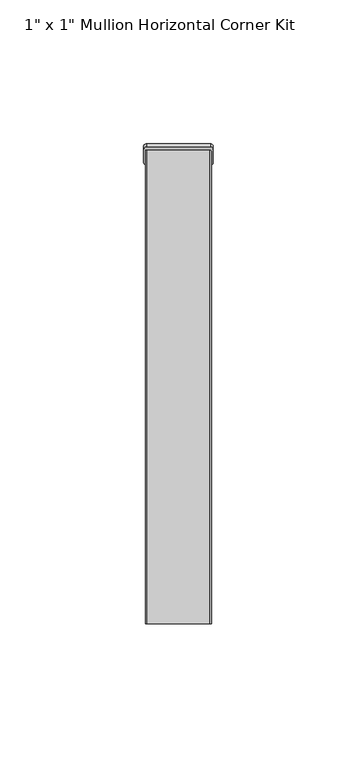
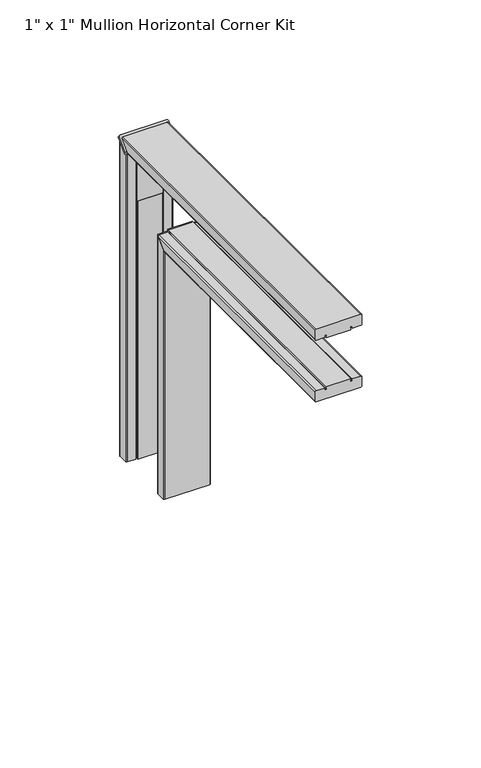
"""IFC4 building model written with IfcOpenShell, lengths in millimetres: proxy geometry."""

import ifcopenshell
import ifcopenshell.guid

model = None  # the IFC model being written
_history = None  # IfcOwnerHistory: only IFC2X3 demands one
_inside = {}  # id of a spatial element -> (the spatial element, [elements in it])
_under = {}  # id of a project, library or spatial element -> (it, [spatial elements below it])
_declared = {}  # id of a project -> (the project, [libraries it declares])
_typed = {}  # id of a type object -> (the type object, [elements of that type])
_made_of = {}  # id of a material, layer set ... -> (it, [elements and type objects made of it])


def new_model(schema):
    """Start an empty IFC model of exactly this schema.

    Asked for "IFC4X3", IfcOpenShell would pick the latest addendum, in which some entities
    have other attributes; the version numbers below select the first issue.
    IFC2X3 requires an IfcOwnerHistory on every rooted entity: one is made here for all.
    """
    global model, _history
    if schema == "IFC4X3":
        model = ifcopenshell.file(schema_version=(4, 3, 0, 0))
    else:
        model = ifcopenshell.file(schema=schema)
    _inside.clear()
    _under.clear()
    _declared.clear()
    _typed.clear()
    _made_of.clear()
    _history = None
    if model.schema == "IFC2X3":
        org = make("IfcOrganization", Name="unknown")
        user = make(
            "IfcPersonAndOrganization",
            ThePerson=make("IfcPerson", FamilyName="unknown"),
            TheOrganization=org,
        )
        app = make(
            "IfcApplication",
            ApplicationDeveloper=org,
            Version="unknown",
            ApplicationFullName="unknown",
            ApplicationIdentifier="unknown",
        )
        _history = make(
            "IfcOwnerHistory",
            OwningUser=user,
            OwningApplication=app,
            ChangeAction="ADDED",
            CreationDate=0,
        )
    return model


def make(cls, **values):
    """One entity of the class cls with the attributes given. An attribute that is None is left unset."""
    return model.create_entity(
        cls, **{name: value for name, value in values.items() if value is not None}
    )


def rooted(cls, **values):
    """An entity with a GlobalId (a new one), such as an element, a storey or a relation."""
    return make(cls, GlobalId=ifcopenshell.guid.new(), OwnerHistory=_history, **values)


def si_unit(unit_type, name, prefix=None):
    """IfcSIUnit, for example si_unit("LENGTHUNIT", "METRE", prefix="MILLI")."""
    return make("IfcSIUnit", UnitType=unit_type, Prefix=prefix, Name=name)


def assignment(units):
    """IfcUnitAssignment: the units of a project."""
    return None if units is None else make("IfcUnitAssignment", Units=units)


def point(xyz):
    """IfcCartesianPoint."""
    return None if xyz is None else make("IfcCartesianPoint", Coordinates=xyz)


def direction(xyz):
    """IfcDirection."""
    return None if xyz is None else make("IfcDirection", DirectionRatios=xyz)


def frame(location, z_axis=None, x_axis=None):
    """IfcAxis2Placement3D, a coordinate frame: its origin and axes. An axis left out is left unset."""
    return make(
        "IfcAxis2Placement3D",
        Location=point(location),
        Axis=direction(z_axis),
        RefDirection=direction(x_axis),
    )


def origin():
    """The frame at (0, 0, 0) with its axes left unset."""
    return frame((0.0, 0.0, 0.0))


def place(relative_to, where):
    """IfcLocalPlacement: puts the frame where relative to a parent placement (None: the world)."""
    return make(
        "IfcLocalPlacement", PlacementRelTo=relative_to, RelativePlacement=where
    )


def context(
    kind, dimensions, precision=None, world=None, true_north=None, identifier=None
):
    """IfcGeometricRepresentationContext, for example the 3D "Model" context."""
    return make(
        "IfcGeometricRepresentationContext",
        ContextIdentifier=identifier,
        ContextType=kind,
        CoordinateSpaceDimension=dimensions,
        Precision=precision,
        WorldCoordinateSystem=world,
        TrueNorth=true_north,
    )


def project(units=None, contexts=None):
    """IfcProject with its units and contexts."""
    return rooted(
        "IfcProject",
        Name="project",
        RepresentationContexts=contexts,
        UnitsInContext=assignment(units),
    )


def spatial(cls, under=None, at=None, **own):
    """A site, building, storey or space (cls), placed at a placement, below another one or the project."""
    s = rooted(cls, ObjectPlacement=at, **own)
    if under is not None:
        _under.setdefault(under.id(), (under, []))[1].append(s)
    return s


def circle_curve(where, radius):
    """IfcCircle in the frame where."""
    return make("IfcCircle", Position=where, Radius=radius)


def ellipse_curve(where, semi_axis1, semi_axis2):
    """IfcEllipse in the frame where."""
    return make(
        "IfcEllipse", Position=where, SemiAxis1=semi_axis1, SemiAxis2=semi_axis2
    )


def shape(context_of_items, identifier, shape_type, items):
    """IfcShapeRepresentation: the items that make up one representation, for example the "Body"."""
    return make(
        "IfcShapeRepresentation",
        ContextOfItems=context_of_items,
        RepresentationIdentifier=identifier,
        RepresentationType=shape_type,
        Items=items,
    )


def source(mapping_origin, context_of_items, identifier, shape_type, items):
    """IfcRepresentationMap: a shape defined once, which mapped items show again and again."""
    return make(
        "IfcRepresentationMap",
        MappingOrigin=mapping_origin,
        MappedRepresentation=shape(context_of_items, identifier, shape_type, items),
    )


def transform(
    local_origin,
    x_axis=None,
    y_axis=None,
    z_axis=None,
    scale=None,
    scale2=None,
    scale3=None,
    uniform=True,
):
    """IfcCartesianTransformationOperator3D, or its non-uniform kind. x_axis, y_axis, z_axis: its Axis1, 2, 3."""
    if uniform:
        return make(
            "IfcCartesianTransformationOperator3D",
            Axis1=direction(x_axis),
            Axis2=direction(y_axis),
            LocalOrigin=point(local_origin),
            Scale=scale,
            Axis3=direction(z_axis),
        )
    return make(
        "IfcCartesianTransformationOperator3DnonUniform",
        Axis1=direction(x_axis),
        Axis2=direction(y_axis),
        LocalOrigin=point(local_origin),
        Scale=scale,
        Axis3=direction(z_axis),
        Scale2=scale2,
        Scale3=scale3,
    )


def mapped(mapping_source, mapping_target):
    """IfcMappedItem: shows the shape of a source again, moved by a transform."""
    return make(
        "IfcMappedItem", MappingSource=mapping_source, MappingTarget=mapping_target
    )


def made_of(thing, what):
    """Note that an element or type object is made of a material, layer set ...; save() writes the relation."""
    if what is not None:
        _made_of.setdefault(what.id(), (what, []))[1].append(thing)
    return thing


def element(
    cls,
    number,
    at=None,
    inside=None,
    cuts=None,
    type_object=None,
    material=None,
    context=None,
    identifier="Body",
    shape_type=None,
    held_by="IfcProductDefinitionShape",
    body=None,
    shapes=None,
    **own,
):
    """One element of the class cls, such as IfcWall. Its Tag is "e" and its number.

    at: its placement. inside: the storey or other place that contains it. cuts: it is an
    opening in that element (IfcRelVoidsElement). A single representation is given by context,
    identifier, shape_type and body (its items); several are given by shapes. held_by: the class
    of the entity that holds the representations. save() writes the other relations.
    """
    e = rooted(cls, Tag="e%d" % number, ObjectPlacement=at, **own)
    if body is not None:
        shapes = [shape(context, identifier, shape_type, body)]
    if shapes is not None:
        e.Representation = make(held_by, Representations=shapes)
    if inside is not None:
        _inside.setdefault(inside.id(), (inside, []))[1].append(e)
    if cuts is not None:
        rooted(
            "IfcRelVoidsElement", RelatingBuildingElement=cuts, RelatedOpeningElement=e
        )
    if type_object is not None:
        _typed.setdefault(type_object.id(), (type_object, []))[1].append(e)
    return made_of(e, material)


def aggregate(whole, parts):
    """IfcRelAggregates: a whole, such as a stair, and the parts it consists of."""
    return rooted("IfcRelAggregates", RelatingObject=whole, RelatedObjects=parts)


def save(model, path):
    """Write the relations noted so far, then the file.

    IfcRelAggregates (storeys below a building ...), IfcRelContainedInSpatialStructure (elements
    in a storey), IfcRelDefinesByType, IfcRelAssociatesMaterial and IfcRelDeclares: one each for
    every whole, place, type object, material and project.
    """
    for whole, parts in _under.values():
        aggregate(whole, parts)
    for where, things in _inside.values():
        rooted(
            "IfcRelContainedInSpatialStructure",
            RelatedElements=things,
            RelatingStructure=where,
        )
    for kind, things in _typed.values():
        rooted("IfcRelDefinesByType", RelatedObjects=things, RelatingType=kind)
    for what, things in _made_of.values():
        rooted("IfcRelAssociatesMaterial", RelatedObjects=things, RelatingMaterial=what)
    for by, libraries in _declared.values():
        rooted("IfcRelDeclares", RelatingContext=by, RelatedDefinitions=libraries)
    model.write(path)


def plane_surface(at):
    """IfcPlane: the flat surface through the origin of the frame at, square to its z axis."""
    return make("IfcPlane", Position=at)


def cylinder_surface(at, radius):
    """IfcCylindricalSurface: all points at the distance radius from the z axis of the frame at."""
    return make("IfcCylindricalSurface", Position=at, Radius=radius)


def advanced_brep(points, edges, surfaces, faces):
    """IfcAdvancedBrep: a solid bounded by faces that lie on surfaces and meet in shared edges.

    An edge is (start, end): straight between two places in points (the first is 0);
    or (start, end, curve); or (start, end, curve, False) where it runs against its curve.
    A face is (place in surfaces, loops), or (place, loops, False) where it looks against
    its surface's normal. A loop lists edges by number (the first is 1), with a minus sign
    where the edge is run from its end to its start. The first loop is the outer one.
    """
    corners = [point(p) for p in points]
    vertices = [make("IfcVertexPoint", VertexGeometry=c) for c in corners]
    made = []
    for start, end, *more in edges:
        made.append(
            make(
                "IfcEdgeCurve",
                EdgeStart=vertices[start],
                EdgeEnd=vertices[end],
                EdgeGeometry=more[0] if more else make("IfcPolyline", Points=[corners[start], corners[end]]),
                SameSense=more[1] if len(more) > 1 else True,
            )
        )
    hull = []
    for where, loops, *sense in faces:
        bounds = []
        for j, loop in enumerate(loops):
            ring = [make("IfcOrientedEdge", EdgeElement=made[abs(k) - 1], Orientation=k > 0) for k in loop]
            bounds.append(
                make(
                    "IfcFaceOuterBound" if j == 0 else "IfcFaceBound",
                    Bound=make("IfcEdgeLoop", EdgeList=ring),
                    Orientation=True,
                )
            )
        hull.append(make("IfcAdvancedFace", Bounds=bounds, FaceSurface=surfaces[where], SameSense=sense[0] if sense else True))
    return make("IfcAdvancedBrep", Outer=make("IfcClosedShell", CfsFaces=hull))


def proxy_998302b4(model_context):
    return source(origin(), model_context, "Body", "AdvancedBrep", [
        advanced_brep(
        [(12.065, 5.9717086, 4.8940779), (12.065, 1.2071068, 0.129476), (11.065, 0.5, -0.5776307), (6.3695855, 0.5, -0.5776307), (6.3695855, 1.5, 0.4223693), (-6.3695855, 1.5, 0.4223693), (-6.3695855, 0.5, -0.5776307), (-11.065, 0.5, -0.5776307), (-12.065, 1.2071068, 0.129476), (-12.065, 5.9717086, 4.8940779), (-11.065, 6.6788154, 5.6011846), (11.065, 6.6788154, 5.6011846), (12.065, 4.8940779, 5.9717086), (11.065, 5.6011846, 6.6788154), (-11.065, 5.6011846, 6.6788154), (-12.065, 4.8940779, 5.9717086), (-12.065, 0.129476, 1.2071068), (-11.065, -0.5776307, 0.5), (-6.3695855, -0.5776307, 0.5), (-6.3695855, 0.4223693, 1.5), (6.3695855, 0.4223693, 1.5), (6.3695855, -0.5776307, 0.5), (11.065, -0.5776307, 0.5), (12.065, 0.129476, 1.2071068), (11.065, -0.3276307, 0.25), (11.8712658, 0.25, 0.25), (11.065, 0.25, -0.3276307), (6.3695855, -0.3276307, 0.25), (6.3695855, 0.25, -0.3276307), (-11.065, -0.3276307, 0.25), (-6.3695855, -0.3276307, 0.25), (-11.065, 0.25, -0.3276307), (-6.3695855, 0.25, -0.3276307), (-11.8712658, 0.25, 0.25), (-6.3695855, 0.25, -26.372), (-6.3695855, 1.5, -26.372), (6.3695855, 1.5, -26.372), (6.3695855, 0.25, -26.372), (-6.3695855, -26.372, 0.25), (-6.3695855, -26.372, 1.5), (6.3695855, -26.372, 1.5), (6.3695855, -26.372, 0.25)],
        [
            (0, 1),
            (1, 2, circle_curve(frame((11.065, 1.2071068, 0.129476), z_axis=(0.0, 0.7071067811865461, -0.707106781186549), x_axis=(0.0, -0.707106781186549, -0.7071067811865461)), 1.0)),
            (2, 3),
            (3, 4),
            (4, 5),
            (5, 6),
            (6, 7),
            (7, 8, circle_curve(frame((-11.065, 1.2071068, 0.129476), z_axis=(0.0, 0.7071067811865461, -0.707106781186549), x_axis=(0.0, -0.707106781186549, -0.7071067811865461)), 1.0)),
            (8, 9),
            (9, 10, circle_curve(frame((-11.065, 5.9717086, 4.8940779), z_axis=(0.0, 0.7071067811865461, -0.707106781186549), x_axis=(0.0, -0.707106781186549, -0.7071067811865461)), 1.0)),
            (10, 11),
            (11, 0, circle_curve(frame((11.065, 5.9717086, 4.8940779), z_axis=(0.0, 0.7071067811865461, -0.707106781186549), x_axis=(0.0, -0.707106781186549, -0.7071067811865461)), 1.0)),
            (12, 13, circle_curve(frame((11.065, 4.8940779, 5.9717086), z_axis=(0.0, -0.7071067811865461, 0.707106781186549), x_axis=(0.0, -0.707106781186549, -0.7071067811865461)), 1.0)),
            (13, 14),
            (14, 15, circle_curve(frame((-11.065, 4.8940779, 5.9717086), z_axis=(0.0, -0.7071067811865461, 0.707106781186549), x_axis=(0.0, -0.707106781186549, -0.7071067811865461)), 1.0)),
            (15, 16),
            (16, 17, circle_curve(frame((-11.065, 0.129476, 1.2071068), z_axis=(0.0, -0.7071067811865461, 0.707106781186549), x_axis=(0.0, -0.707106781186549, -0.7071067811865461)), 1.0)),
            (17, 18),
            (18, 19),
            (19, 20),
            (20, 21),
            (21, 22),
            (22, 23, circle_curve(frame((11.065, 0.129476, 1.2071068), z_axis=(0.0, -0.7071067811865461, 0.707106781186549), x_axis=(0.0, -0.707106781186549, -0.7071067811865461)), 1.0)),
            (23, 12),
            (0, 12),
            (23, 1),
            (22, 24),
            (24, 25, ellipse_curve(frame((11.065, 1.0865828, 0.25), z_axis=(0.0, 0.0, 1.0), x_axis=(0.0, 1.0, 0.0)), 1.4142136, 1.0)),
            (25, 26, ellipse_curve(frame((11.065, 0.25, 1.0865828), z_axis=(0.0, 1.0, 0.0), x_axis=(0.0, 0.0, -1.0)), 1.4142136, 1.0)),
            (26, 2),
            (21, 27),
            (27, 24),
            (26, 28),
            (28, 3),
            (17, 29),
            (29, 30),
            (30, 18),
            (31, 7),
            (6, 32),
            (32, 31),
            (31, 33, ellipse_curve(frame((-11.065, 0.25, 1.0865828), z_axis=(0.0, 1.0, 0.0), x_axis=(0.0, 0.0, -1.0)), 1.4142136, 1.0)),
            (33, 29, ellipse_curve(frame((-11.065, 1.0865828, 0.25), z_axis=(0.0, 0.0, 1.0), x_axis=(0.0, 1.0, 0.0)), 1.4142136, 1.0)),
            (16, 8),
            (15, 9),
            (14, 10),
            (13, 11),
            (34, 35),
            (35, 36),
            (36, 37),
            (37, 34),
            (34, 32),
            (5, 35),
            (38, 39),
            (39, 19),
            (30, 38),
            (4, 36),
            (28, 37),
            (40, 41),
            (41, 27),
            (20, 40),
            (38, 41),
            (40, 39),
            (33, 25),
        ],
        [
            plane_surface(frame((0.0, 0.5388154, -0.5388154), z_axis=(0.0, 0.7071067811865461, -0.707106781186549), x_axis=(1.0, 0.0, 0.0))),
            plane_surface(frame((0.0, -0.5388154, 0.5388154), z_axis=(0.0, -0.7071067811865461, 0.707106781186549), x_axis=(1.0, 0.0, 0.0))),
            plane_surface(frame((12.065, 5.9717086, 4.8940779), z_axis=(1.0000000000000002, 0.0, 0.0), x_axis=(0.0, -0.7071067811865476, 0.7071067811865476))),
            cylinder_surface(frame((11.065, 1.2071068, 0.129476), z_axis=(0.0, 0.7071067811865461, -0.707106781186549), x_axis=(0.0, -0.707106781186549, -0.7071067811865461)), 1.0),
            plane_surface(frame((11.065, 0.5, -0.5776307), z_axis=(0.0, -0.7071067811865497, -0.7071067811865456), x_axis=(0.0, -0.7071067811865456, 0.7071067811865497))),
            cylinder_surface(frame((-11.065, 1.2071068, 0.129476), z_axis=(0.0, 0.7071067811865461, -0.707106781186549), x_axis=(0.0, -0.707106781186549, -0.7071067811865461)), 1.0),
            plane_surface(frame((-12.065, 1.2071068, 0.129476), z_axis=(-1.0000000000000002, 0.0, 0.0), x_axis=(0.0, -0.7071067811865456, 0.7071067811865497))),
            cylinder_surface(frame((-11.065, 5.9717086, 4.8940779), z_axis=(0.0, 0.7071067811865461, -0.707106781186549), x_axis=(0.0, -0.707106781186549, -0.7071067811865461)), 1.0),
            plane_surface(frame((-11.065, 6.6788154, 5.6011846), z_axis=(0.0, 0.7071067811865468, 0.7071067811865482), x_axis=(0.0, -0.7071067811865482, 0.7071067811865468))),
            cylinder_surface(frame((11.065, 5.9717086, 4.8940779), z_axis=(0.0, 0.7071067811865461, -0.707106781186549), x_axis=(0.0, -0.707106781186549, -0.7071067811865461)), 1.0),
            plane_surface(frame((0.0, 0.0, -26.372), z_axis=(0.0, 0.0, -1.0), x_axis=(1.0, 0.0, 0.0))),
            plane_surface(frame((-6.3695855, 0.25, -26.372), z_axis=(-1.0, 0.0, 0.0), x_axis=(0.0, 0.0, 1.0))),
            plane_surface(frame((-6.3695855, 1.5, -26.372), z_axis=(0.0, 1.0, 0.0), x_axis=(0.0, 0.0, 1.0))),
            plane_surface(frame((6.3695855, 1.5, -26.372), z_axis=(1.0, 0.0, 0.0), x_axis=(0.0, 0.0, 1.0))),
            plane_surface(frame((0.0, -26.372, 0.0), z_axis=(0.0, -1.0, 0.0), x_axis=(1.0, 0.0, 0.0))),
            plane_surface(frame((-6.3695855, 1.5, 1.5), z_axis=(0.0, 0.0, 1.0), x_axis=(0.0, -1.0, 0.0))),
            plane_surface(frame((-17.5, -1.028046, 0.25), z_axis=(0.0, 0.0, -1.0), x_axis=(1.0, 0.0, 0.0))),
            plane_surface(frame((-17.5, 0.25, 0.25), z_axis=(0.0, -1.0, 0.0), x_axis=(1.0, 0.0, 0.0))),
        ],
        [
            (0, [[1, 2, 3, 4, 5, 6, 7, 8, 9, 10, 11, 12]]),
            (1, [[13, 14, 15, 16, 17, 18, 19, 20, 21, 22, 23, 24]]),
            (2, [[-1, 25, -24, 26]]),
            (3, [[-2, -26, -23, 27, 28, 29, 30]]),
            (4, [[-27, -22, 31, 32]]),
            (4, [[-30, 33, 34, -3]]),
            (4, [[35, 36, 37, -18]]),
            (4, [[38, -7, 39, 40]]),
            (5, [[-8, -38, 41, 42, -35, -17, 43]]),
            (6, [[-9, -43, -16, 44]]),
            (7, [[-10, -44, -15, 45]]),
            (8, [[-11, -45, -14, 46]]),
            (9, [[-12, -46, -13, -25]]),
            (10, [[47, 48, 49, 50]]),
            (11, [[-47, 51, -39, -6, 52]]),
            (11, [[53, 54, -19, -37, 55]]),
            (12, [[-48, -52, -5, 56]]),
            (13, [[-49, -56, -4, -34, 57]]),
            (13, [[58, 59, -31, -21, 60]]),
            (14, [[-53, 61, -58, 62]]),
            (15, [[-62, -60, -20, -54]]),
            (16, [[-28, -32, -59, -61, -55, -36, -42, 63]]),
            (17, [[-29, -63, -41, -40, -51, -50, -57, -33]]),
        ],
    ),
        advanced_brep(
        [(-11.5, 5.64, -160.0398438), (-11.0, 6.14, -160.0398438), (11.0, 6.14, -160.0398438), (11.5, 5.64, -160.0398438), (11.5, 1.0, -160.0398438), (11.0, 0.5, -160.0398438), (6.75, 0.5, -160.0398438), (6.75, 1.5, -160.0398438), (5.7984177, 1.5, -160.0398438), (6.0, 0.0, -160.0398438), (-6.0, 0.0, -160.0398438), (-5.7984177, 1.5, -160.0398438), (-6.75, 1.5, -160.0398438), (-6.75, 0.5, -160.0398438), (-11.0, 0.5, -160.0398438), (-11.5, 1.0, -160.0398438), (-11.5, 1.0, 1.0), (-11.5, 5.2407851, 5.2407851), (-11.5, 5.64, 5.2407851), (-11.0, 0.5, 0.5), (-6.75, 0.5, 0.5), (-6.75, 1.5, 1.5), (6.75, 1.5, 1.5), (-5.7984177, 1.5, -26.372), (5.7984177, 1.5, -26.372), (-6.0, 0.0, -26.372), (6.0, 0.0, -26.372), (6.75, 0.5, 0.5), (11.0, 0.5, 0.5), (11.5, 1.0, 1.0), (11.5, 5.64, 5.2407851), (11.5, 5.2407851, 5.2407851), (11.0, 6.14, 5.2407851), (-11.0, 6.14, 5.2407851)],
        [
            (0, 1, circle_curve(frame((-11.0, 5.64, -160.0398438), z_axis=(0.0, 0.0, -1.0), x_axis=(0.0, -1.0, 0.0)), 0.5)),
            (1, 2),
            (2, 3, circle_curve(frame((11.0, 5.64, -160.0398438), z_axis=(0.0, 0.0, -1.0), x_axis=(0.0, -1.0, 0.0)), 0.5)),
            (3, 4),
            (4, 5, circle_curve(frame((11.0, 1.0, -160.0398438), z_axis=(0.0, 0.0, -1.0), x_axis=(0.0, -1.0, 0.0)), 0.5)),
            (5, 6),
            (6, 7),
            (7, 8),
            (8, 9),
            (9, 10),
            (10, 11),
            (11, 12),
            (12, 13),
            (13, 14),
            (14, 15, circle_curve(frame((-11.0, 1.0, -160.0398438), z_axis=(0.0, 0.0, -1.0), x_axis=(0.0, -1.0, 0.0)), 0.5)),
            (15, 0),
            (15, 16),
            (16, 17),
            (17, 18),
            (18, 0),
            (14, 19),
            (19, 16, ellipse_curve(frame((-11.0, 1.0, 1.0), z_axis=(0.0, 0.7071067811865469, -0.7071067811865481), x_axis=(0.0, 0.7071067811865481, 0.7071067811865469)), 0.7071068, 0.5)),
            (13, 20),
            (20, 19),
            (12, 21),
            (21, 20),
            (7, 22),
            (22, 21),
            (11, 23),
            (23, 24),
            (24, 8),
            (10, 25),
            (25, 23),
            (9, 26),
            (26, 25),
            (24, 26),
            (6, 27),
            (27, 22),
            (5, 28),
            (28, 27),
            (4, 29),
            (29, 28, ellipse_curve(frame((11.0, 1.0, 1.0), z_axis=(0.0, 0.7071067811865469, -0.7071067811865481), x_axis=(0.0, 0.7071067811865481, 0.7071067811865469)), 0.7071068, 0.5)),
            (3, 30),
            (30, 31),
            (31, 29),
            (2, 32),
            (32, 30, circle_curve(frame((11.0, 5.64, 5.2407851), z_axis=(0.0, 0.0, -1.0), x_axis=(0.0, -1.0, 0.0)), 0.5)),
            (1, 33),
            (33, 32),
            (18, 33, circle_curve(frame((-11.0, 5.64, 5.2407851), z_axis=(0.0, 0.0, -1.0), x_axis=(0.0, -1.0, 0.0)), 0.5)),
            (31, 17),
        ],
        [
            plane_surface(frame((0.0, 0.0, -160.0398438), z_axis=(0.0, 0.0, -1.0), x_axis=(0.0, -1.0, 0.0))),
            plane_surface(frame((-11.5, 5.64, 6.14), z_axis=(-1.0, 0.0, 0.0), x_axis=(0.0, 0.0, -1.0))),
            cylinder_surface(frame((-11.0, 1.0, 6.14), z_axis=(0.0, 0.0, 1.0), x_axis=(0.0, -1.0, 0.0)), 0.5),
            plane_surface(frame((-11.0, 0.5, 6.14), z_axis=(0.0, -1.0, 0.0), x_axis=(0.0, 0.0, -1.0))),
            plane_surface(frame((-6.75, 0.5, 6.14), z_axis=(1.0, 0.0, 0.0), x_axis=(0.0, 0.0, -1.0))),
            plane_surface(frame((-6.75, 1.5, 6.14), z_axis=(0.0, -1.0, 0.0), x_axis=(0.0, 0.0, -1.0))),
            plane_surface(frame((-5.7984177, 1.5, 6.14), z_axis=(-0.9910904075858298, 0.13319085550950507, 0.0), x_axis=(0.0, 0.0, -1.0))),
            plane_surface(frame((-6.0, 0.0, 6.14), z_axis=(0.0, -1.0, 0.0), x_axis=(0.0, 0.0, -1.0))),
            plane_surface(frame((6.0, 0.0, 6.14), z_axis=(0.9910904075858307, 0.1331908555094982, 0.0), x_axis=(0.0, 0.0, -1.0))),
            plane_surface(frame((6.75, 1.5, 6.14), z_axis=(-1.0, 0.0, 0.0), x_axis=(0.0, 0.0, -1.0))),
            plane_surface(frame((6.75, 0.5, 6.14), z_axis=(0.0, -1.0, 0.0), x_axis=(0.0, 0.0, -1.0))),
            cylinder_surface(frame((11.0, 1.0, 6.14), z_axis=(0.0, 0.0, 1.0), x_axis=(0.0, -1.0, 0.0)), 0.5),
            plane_surface(frame((11.5, 1.0, 6.14), z_axis=(1.0, 0.0, 0.0), x_axis=(0.0, 0.0, -1.0))),
            cylinder_surface(frame((11.0, 5.64, 6.14), z_axis=(0.0, 0.0, 1.0), x_axis=(0.0, -1.0, 0.0)), 0.5),
            plane_surface(frame((11.0, 6.14, 6.14), z_axis=(0.0, 1.0, 0.0), x_axis=(0.0, 0.0, -1.0))),
            cylinder_surface(frame((-11.0, 5.64, 6.14), z_axis=(0.0, 0.0, 1.0), x_axis=(0.0, -1.0, 0.0)), 0.5),
            plane_surface(frame((-11.5, 6.14, 6.14), z_axis=(0.0, -0.7071067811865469, 0.7071067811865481), x_axis=(1.0, 0.0, 0.0))),
            plane_surface(frame((0.0, 0.0, -26.372), z_axis=(0.0, 0.0, 1.0), x_axis=(1.0, 0.0, 0.0))),
            plane_surface(frame((-11.5, 6.14, 5.2407851), z_axis=(0.0, 0.0, 1.0), x_axis=(1.0, 0.0, 0.0))),
        ],
        [
            (0, [[1, 2, 3, 4, 5, 6, 7, 8, 9, 10, 11, 12, 13, 14, 15, 16]]),
            (1, [[-16, 17, 18, 19, 20]]),
            (2, [[-15, 21, 22, -17]]),
            (3, [[-14, 23, 24, -21]]),
            (4, [[-13, 25, 26, -23]]),
            (5, [[-8, 27, 28, -25, -12, 29, 30, 31]]),
            (6, [[-11, 32, 33, -29]]),
            (7, [[-10, 34, 35, -32]]),
            (8, [[-9, -31, 36, -34]]),
            (9, [[-7, 37, 38, -27]]),
            (10, [[-6, 39, 40, -37]]),
            (11, [[-5, 41, 42, -39]]),
            (12, [[-4, 43, 44, 45, -41]]),
            (13, [[-3, 46, 47, -43]]),
            (14, [[-2, 48, 49, -46]]),
            (15, [[-1, -20, 50, -48]]),
            (16, [[-22, -24, -26, -28, -38, -40, -42, -45, 51, -18]]),
            (17, [[-30, -33, -35, -36]]),
            (18, [[-19, -51, -44, -47, -49, -50]]),
        ],
    ),
        advanced_brep(
        [(-11.0, -25.9, -160.0398438), (-6.75, -25.9, -160.0398438), (-6.75, -26.9, -160.0398438), (-5.7984177, -26.9, -160.0398438), (-6.0, -25.4, -160.0398438), (6.0, -25.4, -160.0398438), (5.7984177, -26.9, -160.0398438), (6.75, -26.9, -160.0398438), (6.75, -25.9, -160.0398438), (11.0, -25.9, -160.0398438), (11.5, -26.4, -160.0398438), (11.5, -31.04, -160.0398438), (11.0, -31.54, -160.0398438), (-11.0, -31.54, -160.0398438), (-11.5, -31.04, -160.0398438), (-11.5, -26.4, -160.0398438), (-11.5, -26.4, -26.4), (-11.0, -25.9, -25.9), (-11.5, -31.04, -31.04), (-11.0, -31.54, -31.54), (11.0, -31.54, -31.54), (11.5, -31.04, -31.04), (11.5, -26.4, -26.4), (11.0, -25.9, -25.9), (6.75, -25.9, -25.9), (6.75, -26.9, -26.9), (5.7984177, -26.9, -26.9), (6.0, -25.4, -25.4), (-6.0, -25.4, -25.4), (-5.7984177, -26.9, -26.9), (-6.75, -26.9, -26.9), (-6.75, -25.9, -25.9)],
        [
            (0, 1),
            (1, 2),
            (2, 3),
            (3, 4),
            (4, 5),
            (5, 6),
            (6, 7),
            (7, 8),
            (8, 9),
            (9, 10, circle_curve(frame((11.0, -26.4, -160.0398438), z_axis=(0.0, 0.0, -1.0), x_axis=(0.0, -1.0, 0.0)), 0.5)),
            (10, 11),
            (11, 12, circle_curve(frame((11.0, -31.04, -160.0398438), z_axis=(0.0, 0.0, -1.0), x_axis=(0.0, -1.0, 0.0)), 0.5)),
            (12, 13),
            (13, 14, circle_curve(frame((-11.0, -31.04, -160.0398438), z_axis=(0.0, 0.0, -1.0), x_axis=(0.0, -1.0, 0.0)), 0.5)),
            (14, 15),
            (15, 0, circle_curve(frame((-11.0, -26.4, -160.0398438), z_axis=(0.0, 0.0, -1.0), x_axis=(0.0, -1.0, 0.0)), 0.5)),
            (15, 16),
            (16, 17, ellipse_curve(frame((-11.0, -26.4, -26.4), z_axis=(0.0, 0.7071067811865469, -0.7071067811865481), x_axis=(0.0, 0.7071067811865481, 0.7071067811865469)), 0.7071068, 0.5)),
            (17, 0),
            (14, 18),
            (18, 16),
            (13, 19),
            (19, 18, ellipse_curve(frame((-11.0, -31.04, -31.04), z_axis=(0.0, 0.7071067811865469, -0.7071067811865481), x_axis=(0.0, 0.7071067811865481, 0.7071067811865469)), 0.7071068, 0.5)),
            (12, 20),
            (20, 19),
            (11, 21),
            (21, 20, ellipse_curve(frame((11.0, -31.04, -31.04), z_axis=(0.0, 0.7071067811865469, -0.7071067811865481), x_axis=(0.0, 0.7071067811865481, 0.7071067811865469)), 0.7071068, 0.5)),
            (10, 22),
            (22, 21),
            (9, 23),
            (23, 22, ellipse_curve(frame((11.0, -26.4, -26.4), z_axis=(0.0, 0.7071067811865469, -0.7071067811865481), x_axis=(0.0, 0.7071067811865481, 0.7071067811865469)), 0.7071068, 0.5)),
            (8, 24),
            (24, 23),
            (7, 25),
            (25, 24),
            (6, 26),
            (26, 25),
            (5, 27),
            (27, 26),
            (4, 28),
            (28, 27),
            (3, 29),
            (29, 28),
            (2, 30),
            (30, 29),
            (1, 31),
            (31, 30),
            (17, 31),
        ],
        [
            plane_surface(frame((0.0, 0.0, -160.0398438), z_axis=(0.0, 0.0, -1.0), x_axis=(0.0, -1.0, 0.0))),
            cylinder_surface(frame((-11.0, -26.4, 6.14), z_axis=(0.0, 0.0, 1.0), x_axis=(0.0, -1.0, 0.0)), 0.5),
            plane_surface(frame((-11.5, -26.4, 6.14), z_axis=(-1.0, 0.0, 0.0), x_axis=(0.0, 0.0, -1.0))),
            cylinder_surface(frame((-11.0, -31.04, 6.14), z_axis=(0.0, 0.0, 1.0), x_axis=(0.0, -1.0, 0.0)), 0.5),
            plane_surface(frame((-11.0, -31.54, 6.14), z_axis=(0.0, -1.0, 0.0), x_axis=(0.0, 0.0, -1.0))),
            cylinder_surface(frame((11.0, -31.04, 6.14), z_axis=(0.0, 0.0, 1.0), x_axis=(0.0, -1.0, 0.0)), 0.5),
            plane_surface(frame((11.5, -31.04, 6.14), z_axis=(1.0, 0.0, 0.0), x_axis=(0.0, 0.0, -1.0))),
            cylinder_surface(frame((11.0, -26.4, 6.14), z_axis=(0.0, 0.0, 1.0), x_axis=(0.0, -1.0, 0.0)), 0.5),
            plane_surface(frame((11.0, -25.9, 6.14), z_axis=(0.0, 1.0, 0.0), x_axis=(0.0, 0.0, -1.0))),
            plane_surface(frame((6.75, -25.9, 6.14), z_axis=(-1.0, 0.0, 0.0), x_axis=(0.0, 0.0, -1.0))),
            plane_surface(frame((6.75, -26.9, 6.14), z_axis=(0.0, 1.0, 0.0), x_axis=(0.0, 0.0, -1.0))),
            plane_surface(frame((5.7984177, -26.9, 6.14), z_axis=(0.9910904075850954, -0.13319085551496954, 0.0), x_axis=(0.0, 0.0, -1.0))),
            plane_surface(frame((6.0, -25.4, 6.14), z_axis=(0.0, 1.0, 0.0), x_axis=(0.0, 0.0, -1.0))),
            plane_surface(frame((-6.0, -25.4, 6.14), z_axis=(-0.9910904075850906, -0.1331908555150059, 0.0), x_axis=(0.0, 0.0, -1.0))),
            plane_surface(frame((-5.7984177, -26.9, 6.14), z_axis=(0.0, 1.0, 0.0), x_axis=(0.0, 0.0, -1.0))),
            plane_surface(frame((-6.75, -26.9, 6.14), z_axis=(1.0, 0.0, 0.0), x_axis=(0.0, 0.0, -1.0))),
            plane_surface(frame((-6.75, -25.9, 6.14), z_axis=(0.0, 1.0, 0.0), x_axis=(0.0, 0.0, -1.0))),
            plane_surface(frame((-11.5, 6.14, 6.14), z_axis=(0.0, -0.7071067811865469, 0.7071067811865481), x_axis=(1.0, 0.0, 0.0))),
        ],
        [
            (0, [[1, 2, 3, 4, 5, 6, 7, 8, 9, 10, 11, 12, 13, 14, 15, 16]]),
            (1, [[-16, 17, 18, 19]]),
            (2, [[-15, 20, 21, -17]]),
            (3, [[-14, 22, 23, -20]]),
            (4, [[-13, 24, 25, -22]]),
            (5, [[-12, 26, 27, -24]]),
            (6, [[-11, 28, 29, -26]]),
            (7, [[-10, 30, 31, -28]]),
            (8, [[-9, 32, 33, -30]]),
            (9, [[-8, 34, 35, -32]]),
            (10, [[-7, 36, 37, -34]]),
            (11, [[-6, 38, 39, -36]]),
            (12, [[-5, 40, 41, -38]]),
            (13, [[-4, 42, 43, -40]]),
            (14, [[-3, 44, 45, -42]]),
            (15, [[-2, 46, 47, -44]]),
            (16, [[-1, -19, 48, -46]]),
            (17, [[-18, -21, -23, -25, -27, -29, -31, -33, -35, -37, -39, -41, -43, -45, -47, -48]]),
        ],
    ),
        advanced_brep(
        [(-11.5, -160.0398438, 5.64), (-11.5, -160.0398438, 1.0), (-11.0, -160.0398438, 0.5), (-6.75, -160.0398438, 0.5), (-6.75, -160.0398438, 1.5), (-5.7984177, -160.0398438, 1.5), (-6.0, -160.0398438, 0.0), (6.0, -160.0398438, 0.0), (5.7984177, -160.0398438, 1.5), (6.75, -160.0398438, 1.5), (6.75, -160.0398438, 0.5), (11.0, -160.0398438, 0.5), (11.5, -160.0398438, 1.0), (11.5, -160.0398438, 5.64), (11.0, -160.0398438, 6.14), (-11.0, -160.0398438, 6.14), (-11.5, 5.2407851, 5.64), (-11.5, 5.2407851, 5.2407851), (-11.5, 1.0, 1.0), (-11.0, 0.5, 0.5), (-6.75, 0.5, 0.5), (-6.75, 1.5, 1.5), (6.75, 1.5, 1.5), (5.7984177, -26.372, 1.5), (-5.7984177, -26.372, 1.5), (-6.0, -26.372, 0.0), (6.0, -26.372, 0.0), (6.75, 0.5, 0.5), (11.0, 0.5, 0.5), (11.5, 1.0, 1.0), (11.5, 5.2407851, 5.2407851), (11.5, 5.2407851, 5.64), (11.0, 5.2407851, 6.14), (-11.0, 5.2407851, 6.14)],
        [
            (0, 1),
            (1, 2, circle_curve(frame((-11.0, -160.0398438, 1.0), z_axis=(0.0, -1.0, 0.0), x_axis=(-1.0, 0.0, 0.0)), 0.5)),
            (2, 3),
            (3, 4),
            (4, 5),
            (5, 6),
            (6, 7),
            (7, 8),
            (8, 9),
            (9, 10),
            (10, 11),
            (11, 12, circle_curve(frame((11.0, -160.0398438, 1.0), z_axis=(0.0, -1.0, 0.0), x_axis=(-1.0, 0.0, 0.0)), 0.5)),
            (12, 13),
            (13, 14, circle_curve(frame((11.0, -160.0398438, 5.64), z_axis=(0.0, -1.0, 0.0), x_axis=(-1.0, 0.0, 0.0)), 0.5)),
            (14, 15),
            (15, 0, circle_curve(frame((-11.0, -160.0398438, 5.64), z_axis=(0.0, -1.0, 0.0), x_axis=(-1.0, 0.0, 0.0)), 0.5)),
            (0, 16),
            (16, 17),
            (17, 18),
            (18, 1),
            (18, 19, ellipse_curve(frame((-11.0, 1.0, 1.0), z_axis=(0.0, -0.7071067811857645, 0.7071067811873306), x_axis=(0.0, -0.7071067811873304, -0.7071067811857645)), 0.7071068, 0.5)),
            (19, 2),
            (19, 20),
            (20, 3),
            (20, 21),
            (21, 4),
            (21, 22),
            (22, 9),
            (8, 23),
            (23, 24),
            (24, 5),
            (24, 25),
            (25, 6),
            (25, 26),
            (26, 7),
            (26, 23),
            (22, 27),
            (27, 10),
            (27, 28),
            (28, 11),
            (28, 29, ellipse_curve(frame((11.0, 1.0, 1.0), z_axis=(0.0, -0.7071067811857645, 0.7071067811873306), x_axis=(0.0, -0.7071067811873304, -0.7071067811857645)), 0.7071068, 0.5)),
            (29, 12),
            (29, 30),
            (30, 31),
            (31, 13),
            (31, 32, circle_curve(frame((11.0, 5.2407851, 5.64), z_axis=(0.0, -1.0, 0.0), x_axis=(-1.0, 0.0, 0.0)), 0.5)),
            (32, 14),
            (32, 33),
            (33, 15),
            (33, 16, circle_curve(frame((-11.0, 5.2407851, 5.64), z_axis=(0.0, -1.0, 0.0), x_axis=(-1.0, 0.0, 0.0)), 0.5)),
            (17, 30),
        ],
        [
            plane_surface(frame((0.0, -160.0398438, 0.0), z_axis=(0.0, -1.0, 0.0), x_axis=(0.0, 0.0, 1.0))),
            plane_surface(frame((-11.5, -160.0398438, 5.64), z_axis=(-1.0, 0.0, 0.0), x_axis=(0.0, 1.0, 0.0))),
            cylinder_surface(frame((-11.0, -160.0398438, 1.0), z_axis=(0.0, -1.0, 0.0), x_axis=(-1.0, 0.0, 0.0)), 0.5),
            plane_surface(frame((-11.0, -160.0398438, 0.5), z_axis=(0.0, 0.0, -1.0), x_axis=(0.0, 1.0, 0.0))),
            plane_surface(frame((-6.75, -160.0398438, 0.5), z_axis=(1.0, 0.0, 0.0), x_axis=(0.0, 1.0, 0.0))),
            plane_surface(frame((-6.75, -160.0398438, 1.5), z_axis=(0.0, 0.0, -1.0), x_axis=(0.0, 1.0, 0.0))),
            plane_surface(frame((-5.7984177, -160.0398438, 1.5), z_axis=(-0.9910904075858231, 0.0, 0.1331908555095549), x_axis=(0.0, 1.0, 0.0))),
            plane_surface(frame((-6.0, -160.0398438, 0.0), z_axis=(0.0, 0.0, -1.0), x_axis=(0.0, 1.0, 0.0))),
            plane_surface(frame((6.0, -160.0398438, 0.0), z_axis=(0.9910904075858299, 0.0, 0.1331908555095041), x_axis=(0.0, 1.0, 0.0))),
            plane_surface(frame((6.75, -160.0398438, 1.5), z_axis=(-1.0, 0.0, 0.0), x_axis=(0.0, 1.0, 0.0))),
            plane_surface(frame((6.75, -160.0398438, 0.5), z_axis=(0.0, 0.0, -1.0), x_axis=(0.0, 1.0, 0.0))),
            cylinder_surface(frame((11.0, -160.0398438, 1.0), z_axis=(0.0, -1.0, 0.0), x_axis=(-1.0, 0.0, 0.0)), 0.5),
            plane_surface(frame((11.5, -160.0398438, 1.0), z_axis=(1.0, 0.0, 0.0), x_axis=(0.0, 1.0, 0.0))),
            cylinder_surface(frame((11.0, -160.0398438, 5.64), z_axis=(0.0, -1.0, 0.0), x_axis=(-1.0, 0.0, 0.0)), 0.5),
            plane_surface(frame((11.0, -160.0398438, 6.14), z_axis=(0.0, 0.0, 1.0), x_axis=(0.0, 1.0, 0.0))),
            cylinder_surface(frame((-11.0, -160.0398438, 5.64), z_axis=(0.0, -1.0, 0.0), x_axis=(-1.0, 0.0, 0.0)), 0.5),
            plane_surface(frame((-11.5, -31.54, -31.54), z_axis=(0.0, 0.7071067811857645, -0.7071067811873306), x_axis=(1.0, 0.0, 0.0))),
            plane_surface(frame((0.0, -26.372, 0.0), z_axis=(0.0, 1.0, 0.0), x_axis=(1.0, 0.0, 0.0))),
            plane_surface(frame((-11.5, 5.2407851, 5.2407851), z_axis=(0.0, 1.0, 0.0), x_axis=(1.0, 0.0, 0.0))),
        ],
        [
            (0, [[1, 2, 3, 4, 5, 6, 7, 8, 9, 10, 11, 12, 13, 14, 15, 16]]),
            (1, [[-1, 17, 18, 19, 20]]),
            (2, [[-2, -20, 21, 22]]),
            (3, [[-3, -22, 23, 24]]),
            (4, [[-4, -24, 25, 26]]),
            (5, [[-5, -26, 27, 28, -9, 29, 30, 31]]),
            (6, [[-6, -31, 32, 33]]),
            (7, [[-7, -33, 34, 35]]),
            (8, [[-8, -35, 36, -29]]),
            (9, [[-10, -28, 37, 38]]),
            (10, [[-11, -38, 39, 40]]),
            (11, [[-12, -40, 41, 42]]),
            (12, [[-13, -42, 43, 44, 45]]),
            (13, [[-14, -45, 46, 47]]),
            (14, [[-15, -47, 48, 49]]),
            (15, [[-16, -49, 50, -17]]),
            (16, [[-21, -19, 51, -43, -41, -39, -37, -27, -25, -23]]),
            (17, [[-30, -36, -34, -32]]),
            (18, [[-18, -50, -48, -46, -44, -51]]),
        ],
    ),
        advanced_brep(
        [(-11.0, -160.0398438, -25.9), (-11.5, -160.0398438, -26.4), (-11.5, -160.0398438, -31.04), (-11.0, -160.0398438, -31.54), (11.0, -160.0398438, -31.54), (11.5, -160.0398438, -31.04), (11.5, -160.0398438, -26.4), (11.0, -160.0398438, -25.9), (6.75, -160.0398438, -25.9), (6.75, -160.0398438, -26.9), (5.7984177, -160.0398438, -26.9), (6.0, -160.0398438, -25.4), (-6.0, -160.0398438, -25.4), (-5.7984177, -160.0398438, -26.9), (-6.75, -160.0398438, -26.9), (-6.75, -160.0398438, -25.9), (-11.0, -25.9, -25.9), (-11.5, -26.4, -26.4), (-11.5, -31.04, -31.04), (-11.0, -31.54, -31.54), (11.0, -31.54, -31.54), (11.5, -31.04, -31.04), (11.5, -26.4, -26.4), (11.0, -25.9, -25.9), (6.75, -25.9, -25.9), (6.75, -26.9, -26.9), (5.7984177, -26.9, -26.9), (6.0, -25.4, -25.4), (-6.0, -25.4, -25.4), (-5.7984177, -26.9, -26.9), (-6.75, -26.9, -26.9), (-6.75, -25.9, -25.9)],
        [
            (0, 1, circle_curve(frame((-11.0, -160.0398438, -26.4), z_axis=(0.0, -1.0, 0.0), x_axis=(-1.0, 0.0, 0.0)), 0.5)),
            (1, 2),
            (2, 3, circle_curve(frame((-11.0, -160.0398438, -31.04), z_axis=(0.0, -1.0, 0.0), x_axis=(-1.0, 0.0, 0.0)), 0.5)),
            (3, 4),
            (4, 5, circle_curve(frame((11.0, -160.0398438, -31.04), z_axis=(0.0, -1.0, 0.0), x_axis=(-1.0, 0.0, 0.0)), 0.5)),
            (5, 6),
            (6, 7, circle_curve(frame((11.0, -160.0398438, -26.4), z_axis=(0.0, -1.0, 0.0), x_axis=(-1.0, 0.0, 0.0)), 0.5)),
            (7, 8),
            (8, 9),
            (9, 10),
            (10, 11),
            (11, 12),
            (12, 13),
            (13, 14),
            (14, 15),
            (15, 0),
            (0, 16),
            (16, 17, ellipse_curve(frame((-11.0, -26.4, -26.4), z_axis=(0.0, -0.7071067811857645, 0.7071067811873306), x_axis=(0.0, -0.7071067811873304, -0.7071067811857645)), 0.7071068, 0.5)),
            (17, 1),
            (17, 18),
            (18, 2),
            (18, 19, ellipse_curve(frame((-11.0, -31.04, -31.04), z_axis=(0.0, -0.7071067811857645, 0.7071067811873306), x_axis=(0.0, -0.7071067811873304, -0.7071067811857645)), 0.7071068, 0.5)),
            (19, 3),
            (19, 20),
            (20, 4),
            (20, 21, ellipse_curve(frame((11.0, -31.04, -31.04), z_axis=(0.0, -0.7071067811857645, 0.7071067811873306), x_axis=(0.0, -0.7071067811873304, -0.7071067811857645)), 0.7071068, 0.5)),
            (21, 5),
            (21, 22),
            (22, 6),
            (22, 23, ellipse_curve(frame((11.0, -26.4, -26.4), z_axis=(0.0, -0.7071067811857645, 0.7071067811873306), x_axis=(0.0, -0.7071067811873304, -0.7071067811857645)), 0.7071068, 0.5)),
            (23, 7),
            (23, 24),
            (24, 8),
            (24, 25),
            (25, 9),
            (25, 26),
            (26, 10),
            (26, 27),
            (27, 11),
            (27, 28),
            (28, 12),
            (28, 29),
            (29, 13),
            (29, 30),
            (30, 14),
            (30, 31),
            (31, 15),
            (31, 16),
        ],
        [
            plane_surface(frame((0.0, -160.0398438, 0.0), z_axis=(0.0, -1.0, 0.0), x_axis=(0.0, 0.0, 1.0))),
            cylinder_surface(frame((-11.0, -160.0398438, -26.4), z_axis=(0.0, -1.0, 0.0), x_axis=(-1.0, 0.0, 0.0)), 0.5),
            plane_surface(frame((-11.5, -160.0398438, -26.4), z_axis=(-1.0, 0.0, 0.0), x_axis=(0.0, 1.0, 0.0))),
            cylinder_surface(frame((-11.0, -160.0398438, -31.04), z_axis=(0.0, -1.0, 0.0), x_axis=(-1.0, 0.0, 0.0)), 0.5),
            plane_surface(frame((-11.0, -160.0398438, -31.54), z_axis=(0.0, 0.0, -1.0), x_axis=(0.0, 1.0, 0.0))),
            cylinder_surface(frame((11.0, -160.0398438, -31.04), z_axis=(0.0, -1.0, 0.0), x_axis=(-1.0, 0.0, 0.0)), 0.5),
            plane_surface(frame((11.5, -160.0398438, -31.04), z_axis=(1.0, 0.0, 0.0), x_axis=(0.0, 1.0, 0.0))),
            cylinder_surface(frame((11.0, -160.0398438, -26.4), z_axis=(0.0, -1.0, 0.0), x_axis=(-1.0, 0.0, 0.0)), 0.5),
            plane_surface(frame((11.0, -160.0398438, -25.9), z_axis=(0.0, 0.0, 1.0), x_axis=(0.0, 1.0, 0.0))),
            plane_surface(frame((6.75, -160.0398438, -25.9), z_axis=(-1.0, 0.0, 0.0), x_axis=(0.0, 1.0, 0.0))),
            plane_surface(frame((6.75, -160.0398438, -26.9), z_axis=(0.0, 0.0, 1.0), x_axis=(0.0, 1.0, 0.0))),
            plane_surface(frame((5.7984177, -160.0398438, -26.9), z_axis=(0.9910904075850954, 0.0, -0.13319085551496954), x_axis=(0.0, 1.0, 0.0))),
            plane_surface(frame((6.0, -160.0398438, -25.4), z_axis=(0.0, 0.0, 1.0), x_axis=(0.0, 1.0, 0.0))),
            plane_surface(frame((-6.0, -160.0398438, -25.4), z_axis=(-0.9910904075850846, 0.0, -0.1331908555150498), x_axis=(0.0, 1.0, 0.0))),
            plane_surface(frame((-5.7984177, -160.0398438, -26.9), z_axis=(0.0, 0.0, 1.0), x_axis=(0.0, 1.0, 0.0))),
            plane_surface(frame((-6.75, -160.0398438, -26.9), z_axis=(1.0, 0.0, 0.0), x_axis=(0.0, 1.0, 0.0))),
            plane_surface(frame((-6.75, -160.0398438, -25.9), z_axis=(0.0, 0.0, 1.0), x_axis=(0.0, 1.0, 0.0))),
            plane_surface(frame((-11.5, -31.54, -31.54), z_axis=(0.0, 0.7071067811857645, -0.7071067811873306), x_axis=(1.0, 0.0, 0.0))),
        ],
        [
            (0, [[1, 2, 3, 4, 5, 6, 7, 8, 9, 10, 11, 12, 13, 14, 15, 16]]),
            (1, [[-1, 17, 18, 19]]),
            (2, [[-2, -19, 20, 21]]),
            (3, [[-3, -21, 22, 23]]),
            (4, [[-4, -23, 24, 25]]),
            (5, [[-5, -25, 26, 27]]),
            (6, [[-6, -27, 28, 29]]),
            (7, [[-7, -29, 30, 31]]),
            (8, [[-8, -31, 32, 33]]),
            (9, [[-9, -33, 34, 35]]),
            (10, [[-10, -35, 36, 37]]),
            (11, [[-11, -37, 38, 39]]),
            (12, [[-12, -39, 40, 41]]),
            (13, [[-13, -41, 42, 43]]),
            (14, [[-14, -43, 44, 45]]),
            (15, [[-15, -45, 46, 47]]),
            (16, [[-16, -47, 48, -17]]),
            (17, [[-18, -48, -46, -44, -42, -40, -38, -36, -34, -32, -30, -28, -26, -24, -22, -20]]),
        ],
    ),
    ])


if __name__ == "__main__":
    model = new_model("IFC4")
    model_context = context("Model", 3, world=origin())
    ifc_project = project(units=[si_unit("LENGTHUNIT", "METRE", prefix="MILLI")], contexts=[model_context])
    site = spatial("IfcSite", under=ifc_project)
    building = spatial("IfcBuilding", under=site)
    placement = place(None, origin())
    proxy_shape = proxy_998302b4(model_context)
    element("IfcBuildingElementProxy", 1, Name="Frame-Teknion-Architectural_Complements-FCMH_1x1_Mullion_Horizontal_Corner-R2018 : 1\" x 1\" Mullion Horizontal Corner Kit", ObjectType="Frame-Teknion-Architectural_Complements-FCMH_1x1_Mullion_Horizontal_Corner-R2018 : 1\" x 1\" Mullion Horizontal Corner Kit", at=placement, inside=building, context=model_context, shape_type="MappedRepresentation", body=[
        mapped(proxy_shape, transform((0.0, 0.0, 0.0), x_axis=(1.0, 0.0, 0.0), y_axis=(0.0, 1.0, 0.0), z_axis=(0.0, 0.0, 1.0))),
    ])
    save(model, "model.ifc")
